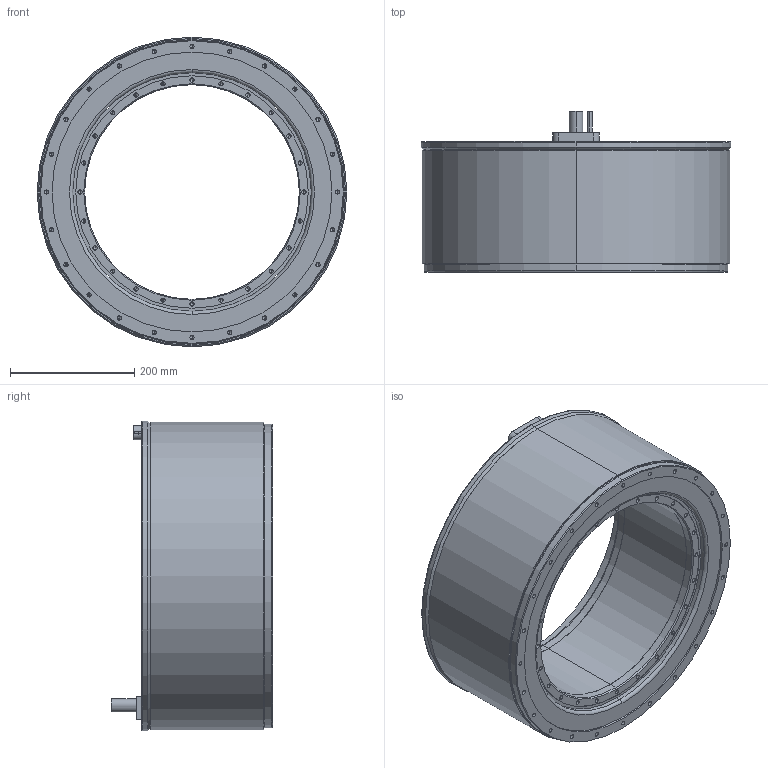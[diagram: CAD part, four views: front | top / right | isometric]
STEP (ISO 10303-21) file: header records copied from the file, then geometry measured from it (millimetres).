
FILE_DESCRIPTION (( 'STEP AP203' ), '1' );
FILE_NAME ('TM-2-DH-SD0(J0).STEP', '2023-06-06T03:12:37', ( '' ), ( '' ), 'SwSTEP 2.0', 'SolidWorks 2015', '' );
FILE_SCHEMA (( 'CONFIG_CONTROL_DESIGN' ));
Length unit declared in the file: millimetre
Products named in the file (3): TM-2-DH-SD0(J0); TM-2-DH(J0)_Rotor; TM-2-DH-SD0(J0)_Stator
Assembly tree (2 placements, depth 2):
  TM-2-DH-SD0(J0)
    TM-2-DH-SD0(J0)_Stator
    TM-2-DH(J0)_Rotor
Bounding box: 498 x 259 x 498 mm (x, y, z)
Volume: 19386142.5 mm3; surface area: 1220573.7 mm2
Topology: 2 solids, 2 shells, 553 faces, 1336 edges, 717 vertices
Faces by surface type: cylinder 253, cone 214, plane 74, torus 12
Entity records: 14977 total; most frequent: DIRECTION 2810, CARTESIAN_POINT 2417, ORIENTED_EDGE 2284, EDGE_CURVE 1142, AXIS2_PLACEMENT_3D 1110, VERTEX_POINT 717, EDGE_LOOP 681, VECTOR 590
